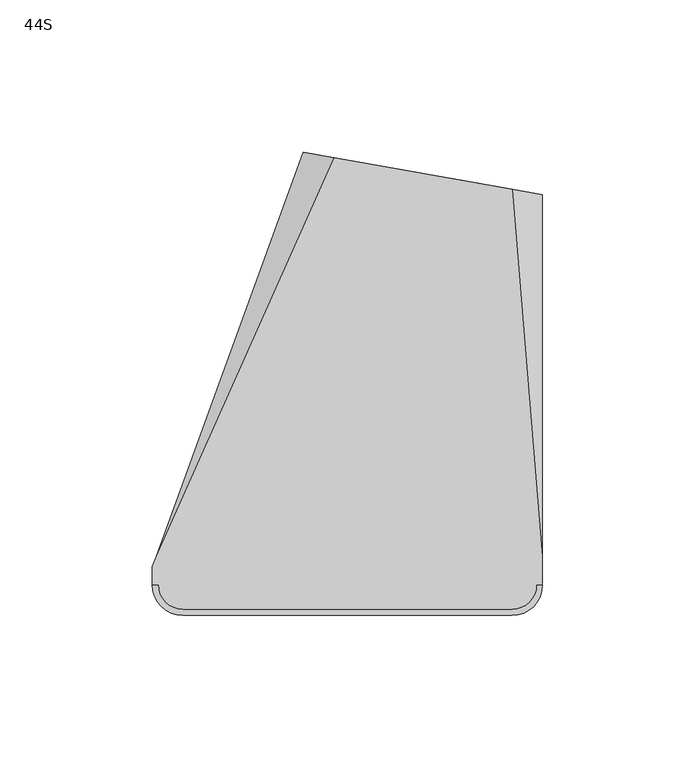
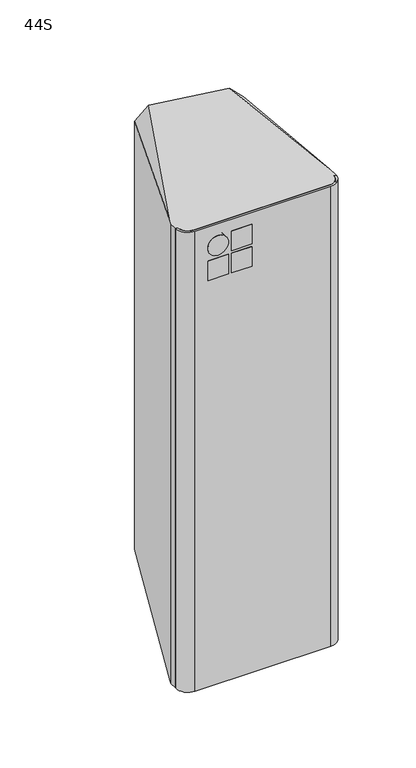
"""IFC4 building model written with IfcOpenShell, lengths in millimetres: proxy geometry, d&b xS-Series 44S Point Source : 44S."""

import ifcopenshell
import ifcopenshell.guid

model = None  # the IFC model being written
_history = None  # IfcOwnerHistory: only IFC2X3 demands one
_inside = {}  # id of a spatial element -> (the spatial element, [elements in it])
_under = {}  # id of a project, library or spatial element -> (it, [spatial elements below it])
_declared = {}  # id of a project -> (the project, [libraries it declares])
_typed = {}  # id of a type object -> (the type object, [elements of that type])
_made_of = {}  # id of a material, layer set ... -> (it, [elements and type objects made of it])


def new_model(schema):
    """Start an empty IFC model of exactly this schema.

    Asked for "IFC4X3", IfcOpenShell would pick the latest addendum, in which some entities
    have other attributes; the version numbers below select the first issue.
    IFC2X3 requires an IfcOwnerHistory on every rooted entity: one is made here for all.
    """
    global model, _history
    if schema == "IFC4X3":
        model = ifcopenshell.file(schema_version=(4, 3, 0, 0))
    else:
        model = ifcopenshell.file(schema=schema)
    _inside.clear()
    _under.clear()
    _declared.clear()
    _typed.clear()
    _made_of.clear()
    _history = None
    if model.schema == "IFC2X3":
        org = make("IfcOrganization", Name="unknown")
        user = make(
            "IfcPersonAndOrganization",
            ThePerson=make("IfcPerson", FamilyName="unknown"),
            TheOrganization=org,
        )
        app = make(
            "IfcApplication",
            ApplicationDeveloper=org,
            Version="unknown",
            ApplicationFullName="unknown",
            ApplicationIdentifier="unknown",
        )
        _history = make(
            "IfcOwnerHistory",
            OwningUser=user,
            OwningApplication=app,
            ChangeAction="ADDED",
            CreationDate=0,
        )
    return model


def make(cls, **values):
    """One entity of the class cls with the attributes given. An attribute that is None is left unset."""
    return model.create_entity(
        cls, **{name: value for name, value in values.items() if value is not None}
    )


def rooted(cls, **values):
    """An entity with a GlobalId (a new one), such as an element, a storey or a relation."""
    return make(cls, GlobalId=ifcopenshell.guid.new(), OwnerHistory=_history, **values)


def si_unit(unit_type, name, prefix=None):
    """IfcSIUnit, for example si_unit("LENGTHUNIT", "METRE", prefix="MILLI")."""
    return make("IfcSIUnit", UnitType=unit_type, Prefix=prefix, Name=name)


def assignment(units):
    """IfcUnitAssignment: the units of a project."""
    return None if units is None else make("IfcUnitAssignment", Units=units)


def point(xyz):
    """IfcCartesianPoint."""
    return None if xyz is None else make("IfcCartesianPoint", Coordinates=xyz)


def direction(xyz):
    """IfcDirection."""
    return None if xyz is None else make("IfcDirection", DirectionRatios=xyz)


def frame(location, z_axis=None, x_axis=None):
    """IfcAxis2Placement3D, a coordinate frame: its origin and axes. An axis left out is left unset."""
    return make(
        "IfcAxis2Placement3D",
        Location=point(location),
        Axis=direction(z_axis),
        RefDirection=direction(x_axis),
    )


def frame_2d(location, x_axis=None):
    """IfcAxis2Placement2D, a coordinate frame in the plane: its origin and x axis."""
    return make(
        "IfcAxis2Placement2D", Location=point(location), RefDirection=direction(x_axis)
    )


def origin():
    """The frame at (0, 0, 0) with its axes left unset."""
    return frame((0.0, 0.0, 0.0))


def place(relative_to, where):
    """IfcLocalPlacement: puts the frame where relative to a parent placement (None: the world)."""
    return make(
        "IfcLocalPlacement", PlacementRelTo=relative_to, RelativePlacement=where
    )


def context(
    kind, dimensions, precision=None, world=None, true_north=None, identifier=None
):
    """IfcGeometricRepresentationContext, for example the 3D "Model" context."""
    return make(
        "IfcGeometricRepresentationContext",
        ContextIdentifier=identifier,
        ContextType=kind,
        CoordinateSpaceDimension=dimensions,
        Precision=precision,
        WorldCoordinateSystem=world,
        TrueNorth=true_north,
    )


def project(units=None, contexts=None):
    """IfcProject with its units and contexts."""
    return rooted(
        "IfcProject",
        Name="project",
        RepresentationContexts=contexts,
        UnitsInContext=assignment(units),
    )


def spatial(cls, under=None, at=None, **own):
    """A site, building, storey or space (cls), placed at a placement, below another one or the project."""
    s = rooted(cls, ObjectPlacement=at, **own)
    if under is not None:
        _under.setdefault(under.id(), (under, []))[1].append(s)
    return s


def polyline(points):
    """IfcPolyline through the points."""
    return make("IfcPolyline", Points=[point(p) for p in points])


def circle_curve(where, radius):
    """IfcCircle in the frame where."""
    return make("IfcCircle", Position=where, Radius=radius)


def ellipse_curve(where, semi_axis1, semi_axis2):
    """IfcEllipse in the frame where."""
    return make(
        "IfcEllipse", Position=where, SemiAxis1=semi_axis1, SemiAxis2=semi_axis2
    )


def trimmed(basis, trim1, trim2, sense, master):
    """IfcTrimmedCurve: the piece of a basis curve between two trims."""
    return make(
        "IfcTrimmedCurve",
        BasisCurve=basis,
        Trim1=trim1,
        Trim2=trim2,
        SenseAgreement=sense,
        MasterRepresentation=master,
    )


def segment(curve, same_sense, transition):
    """IfcCompositeCurveSegment."""
    return make(
        "IfcCompositeCurveSegment",
        Transition=transition,
        SameSense=same_sense,
        ParentCurve=curve,
    )


def composite_curve(segments, self_intersect=None):
    """IfcCompositeCurve: segments joined end to end."""
    return make("IfcCompositeCurve", Segments=segments, SelfIntersect=self_intersect)


def outline(outer, holes=None, kind="AREA"):
    """IfcArbitraryClosedProfileDef: a profile drawn as a closed curve; with holes, ...WithVoids."""
    if holes is None:
        return make("IfcArbitraryClosedProfileDef", ProfileType=kind, OuterCurve=outer)
    return make(
        "IfcArbitraryProfileDefWithVoids",
        ProfileType=kind,
        OuterCurve=outer,
        InnerCurves=holes,
    )


def extrude(swept, where, along, depth):
    """IfcExtrudedAreaSolid: the profile swept, set in the frame where, extruded along a direction by depth."""
    return make(
        "IfcExtrudedAreaSolid",
        SweptArea=swept,
        Position=where,
        ExtrudedDirection=direction(along),
        Depth=depth,
    )


def shape(context_of_items, identifier, shape_type, items):
    """IfcShapeRepresentation: the items that make up one representation, for example the "Body"."""
    return make(
        "IfcShapeRepresentation",
        ContextOfItems=context_of_items,
        RepresentationIdentifier=identifier,
        RepresentationType=shape_type,
        Items=items,
    )


def source(mapping_origin, context_of_items, identifier, shape_type, items):
    """IfcRepresentationMap: a shape defined once, which mapped items show again and again."""
    return make(
        "IfcRepresentationMap",
        MappingOrigin=mapping_origin,
        MappedRepresentation=shape(context_of_items, identifier, shape_type, items),
    )


def transform(
    local_origin,
    x_axis=None,
    y_axis=None,
    z_axis=None,
    scale=None,
    scale2=None,
    scale3=None,
    uniform=True,
):
    """IfcCartesianTransformationOperator3D, or its non-uniform kind. x_axis, y_axis, z_axis: its Axis1, 2, 3."""
    if uniform:
        return make(
            "IfcCartesianTransformationOperator3D",
            Axis1=direction(x_axis),
            Axis2=direction(y_axis),
            LocalOrigin=point(local_origin),
            Scale=scale,
            Axis3=direction(z_axis),
        )
    return make(
        "IfcCartesianTransformationOperator3DnonUniform",
        Axis1=direction(x_axis),
        Axis2=direction(y_axis),
        LocalOrigin=point(local_origin),
        Scale=scale,
        Axis3=direction(z_axis),
        Scale2=scale2,
        Scale3=scale3,
    )


def mapped(mapping_source, mapping_target):
    """IfcMappedItem: shows the shape of a source again, moved by a transform."""
    return make(
        "IfcMappedItem", MappingSource=mapping_source, MappingTarget=mapping_target
    )


def made_of(thing, what):
    """Note that an element or type object is made of a material, layer set ...; save() writes the relation."""
    if what is not None:
        _made_of.setdefault(what.id(), (what, []))[1].append(thing)
    return thing


def element(
    cls,
    number,
    at=None,
    inside=None,
    cuts=None,
    type_object=None,
    material=None,
    context=None,
    identifier="Body",
    shape_type=None,
    held_by="IfcProductDefinitionShape",
    body=None,
    shapes=None,
    **own,
):
    """One element of the class cls, such as IfcWall. Its Tag is "e" and its number.

    at: its placement. inside: the storey or other place that contains it. cuts: it is an
    opening in that element (IfcRelVoidsElement). A single representation is given by context,
    identifier, shape_type and body (its items); several are given by shapes. held_by: the class
    of the entity that holds the representations. save() writes the other relations.
    """
    e = rooted(cls, Tag="e%d" % number, ObjectPlacement=at, **own)
    if body is not None:
        shapes = [shape(context, identifier, shape_type, body)]
    if shapes is not None:
        e.Representation = make(held_by, Representations=shapes)
    if inside is not None:
        _inside.setdefault(inside.id(), (inside, []))[1].append(e)
    if cuts is not None:
        rooted(
            "IfcRelVoidsElement", RelatingBuildingElement=cuts, RelatedOpeningElement=e
        )
    if type_object is not None:
        _typed.setdefault(type_object.id(), (type_object, []))[1].append(e)
    return made_of(e, material)


def aggregate(whole, parts):
    """IfcRelAggregates: a whole, such as a stair, and the parts it consists of."""
    return rooted("IfcRelAggregates", RelatingObject=whole, RelatedObjects=parts)


def save(model, path):
    """Write the relations noted so far, then the file.

    IfcRelAggregates (storeys below a building ...), IfcRelContainedInSpatialStructure (elements
    in a storey), IfcRelDefinesByType, IfcRelAssociatesMaterial and IfcRelDeclares: one each for
    every whole, place, type object, material and project.
    """
    for whole, parts in _under.values():
        aggregate(whole, parts)
    for where, things in _inside.values():
        rooted(
            "IfcRelContainedInSpatialStructure",
            RelatedElements=things,
            RelatingStructure=where,
        )
    for kind, things in _typed.values():
        rooted("IfcRelDefinesByType", RelatedObjects=things, RelatingType=kind)
    for what, things in _made_of.values():
        rooted("IfcRelAssociatesMaterial", RelatedObjects=things, RelatingMaterial=what)
    for by, libraries in _declared.values():
        rooted("IfcRelDeclares", RelatingContext=by, RelatedDefinitions=libraries)
    model.write(path)


def plane_surface(at):
    """IfcPlane: the flat surface through the origin of the frame at, square to its z axis."""
    return make("IfcPlane", Position=at)


def cylinder_surface(at, radius):
    """IfcCylindricalSurface: all points at the distance radius from the z axis of the frame at."""
    return make("IfcCylindricalSurface", Position=at, Radius=radius)


def revolved_surface(curve, axis_point, axis_direction):
    """IfcSurfaceOfRevolution: the curve turned about the line through axis_point along axis_direction."""
    return make(
        "IfcSurfaceOfRevolution",
        SweptCurve=make("IfcArbitraryOpenProfileDef", ProfileType="CURVE", Curve=curve),
        AxisPosition=make("IfcAxis1Placement", Location=point(axis_point), Axis=direction(axis_direction)),
    )


def advanced_brep(points, edges, surfaces, faces):
    """IfcAdvancedBrep: a solid bounded by faces that lie on surfaces and meet in shared edges.

    An edge is (start, end): straight between two places in points (the first is 0);
    or (start, end, curve); or (start, end, curve, False) where it runs against its curve.
    A face is (place in surfaces, loops), or (place, loops, False) where it looks against
    its surface's normal. A loop lists edges by number (the first is 1), with a minus sign
    where the edge is run from its end to its start. The first loop is the outer one.
    """
    corners = [point(p) for p in points]
    vertices = [make("IfcVertexPoint", VertexGeometry=c) for c in corners]
    made = []
    for start, end, *more in edges:
        made.append(
            make(
                "IfcEdgeCurve",
                EdgeStart=vertices[start],
                EdgeEnd=vertices[end],
                EdgeGeometry=more[0] if more else make("IfcPolyline", Points=[corners[start], corners[end]]),
                SameSense=more[1] if len(more) > 1 else True,
            )
        )
    hull = []
    for where, loops, *sense in faces:
        bounds = []
        for j, loop in enumerate(loops):
            ring = [make("IfcOrientedEdge", EdgeElement=made[abs(k) - 1], Orientation=k > 0) for k in loop]
            bounds.append(
                make(
                    "IfcFaceOuterBound" if j == 0 else "IfcFaceBound",
                    Bound=make("IfcEdgeLoop", EdgeList=ring),
                    Orientation=True,
                )
            )
        hull.append(make("IfcAdvancedFace", Bounds=bounds, FaceSurface=surfaces[where], SameSense=sense[0] if sense else True))
    return make("IfcAdvancedBrep", Outer=make("IfcClosedShell", CfsFaces=hull))


def proxy_44s_975088ee(model_context):
    return source(origin(), model_context, "Body", "SolidModel", [
        advanced_brep(
        [(64.0, -66.0, -193.2924342), (62.0435242, -66.0, -193.2924342), (54.078429, -73.9650952, -193.4294708), (-54.0, -73.9650952, -193.4294708), (-62.0, -65.9650952, -193.2918337), (-64.0, -65.9650952, -193.2918337), (-64.0, -60.0349048, -193.1898069), (-62.7855103, -56.6972655, -193.132384), (-4.3760941, 74.2148737, -190.8800877), (54.074657, 63.9084293, -191.0574064), (64.0, -56.6972655, -193.132384), (62.0435242, -66.0, 193.2924342), (64.0, -66.0, 193.2924342), (64.0, -56.6972655, 193.132384), (54.074657, 63.9084293, 191.0574064), (-4.3760941, 74.2148737, 190.8800877), (-62.7855103, -56.6972655, 193.132384), (-64.0, -60.0349048, 193.1898069), (-64.0, -65.9650952, 193.2918337), (-62.0, -65.9650952, 193.2918337), (-54.0, -73.9650952, 193.4294708), (54.078429, -73.9650952, 193.4294708), (64.0, 62.1583235, -181.3061997), (64.0, 62.1583235, 181.3061997), (-14.5000481, 76.0, 179.9289467), (-14.5000481, 76.0, -179.9289467), (11.9474751, 71.3365881, -138.5), (37.5524767, 66.8217355, -138.5), (47.4005542, 65.0852537, -128.5), (47.4005542, 65.0852537, -51.5), (37.5524767, 66.8217355, -41.5), (11.9474751, 71.3365881, -41.5), (2.0993976, 73.0730698, -51.5), (2.0993976, 73.0730698, -128.5), (11.0792343, 66.4125493, -138.5), (1.2311567, 68.1490311, -128.5), (1.2311567, 68.1490311, -51.5), (11.0792343, 66.4125493, -41.5), (36.6842358, 61.8976967, -41.5), (46.5323134, 60.1612149, -51.5), (46.5323134, 60.1612149, -128.5), (36.6842358, 61.8976967, -138.5)],
        [
            (0, 1),
            (1, 2, ellipse_curve(frame((54.078429, -66.0, -193.2924342), z_axis=(0.0, 0.017202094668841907, -0.9998520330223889), x_axis=(0.0, -0.999852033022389, -0.017202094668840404)), 7.9662739, 7.9650952)),
            (2, 3),
            (3, 4, ellipse_curve(frame((-54.0, -65.9650952, -193.2918337), z_axis=(0.0, 0.017202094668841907, -0.9998520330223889), x_axis=(0.0, -0.999852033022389, -0.017202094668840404)), 8.0011839, 8.0)),
            (4, 5),
            (5, 6),
            (6, 7),
            (7, 8),
            (8, 9),
            (9, 10),
            (10, 0),
            (11, 12),
            (12, 13),
            (13, 14),
            (14, 15),
            (15, 16),
            (16, 17),
            (17, 18),
            (18, 19),
            (19, 20, ellipse_curve(frame((-54.0, -65.9650952, 193.2918337), z_axis=(0.0, 0.017202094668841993, 0.9998520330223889), x_axis=(0.0, 0.999852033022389, -0.017202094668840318)), 8.0011839, 8.0)),
            (20, 21),
            (21, 11, ellipse_curve(frame((54.078429, -66.0, 193.2924342), z_axis=(0.0, 0.017202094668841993, 0.9998520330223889), x_axis=(0.0, 0.999852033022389, -0.017202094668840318)), 7.9662739, 7.9650952)),
            (0, 12),
            (11, 1),
            (21, 2),
            (20, 3),
            (19, 4),
            (18, 5),
            (17, 6),
            (10, 22),
            (22, 23),
            (23, 13),
            (16, 24),
            (24, 25),
            (25, 7),
            (9, 22),
            (23, 14),
            (15, 24),
            (25, 8),
            (26, 27),
            (27, 28, circle_curve(frame((37.5524767, 66.8217355, -128.5), z_axis=(-0.17364817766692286, -0.9848077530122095, 0.0), x_axis=(-0.9848077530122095, 0.17364817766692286, 0.0)), 10.0)),
            (28, 29),
            (29, 30, circle_curve(frame((37.5524767, 66.8217355, -51.5), z_axis=(-0.17364817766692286, -0.9848077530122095, 0.0), x_axis=(-0.9848077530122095, 0.17364817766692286, 0.0)), 10.0)),
            (30, 31),
            (31, 32, circle_curve(frame((11.9474751, 71.3365881, -51.5), z_axis=(-0.17364817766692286, -0.9848077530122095, 0.0), x_axis=(-0.9848077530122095, 0.17364817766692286, 0.0)), 10.0)),
            (32, 33),
            (33, 26, circle_curve(frame((11.9474751, 71.3365881, -128.5), z_axis=(-0.17364817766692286, -0.9848077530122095, 0.0), x_axis=(-0.9848077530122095, 0.17364817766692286, 0.0)), 10.0)),
            (34, 35, circle_curve(frame((11.0792343, 66.4125493, -128.5), z_axis=(0.17364817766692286, 0.9848077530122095, 0.0), x_axis=(-0.9848077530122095, 0.17364817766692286, 0.0)), 10.0)),
            (35, 36),
            (36, 37, circle_curve(frame((11.0792343, 66.4125493, -51.5), z_axis=(0.17364817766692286, 0.9848077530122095, 0.0), x_axis=(-0.9848077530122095, 0.17364817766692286, 0.0)), 10.0)),
            (37, 38),
            (38, 39, circle_curve(frame((36.6842358, 61.8976967, -51.5), z_axis=(0.17364817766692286, 0.9848077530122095, 0.0), x_axis=(-0.9848077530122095, 0.17364817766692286, 0.0)), 10.0)),
            (39, 40),
            (40, 41, circle_curve(frame((36.6842358, 61.8976967, -128.5), z_axis=(0.17364817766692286, 0.9848077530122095, 0.0), x_axis=(-0.9848077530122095, 0.17364817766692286, 0.0)), 10.0)),
            (41, 34),
            (41, 27),
            (26, 34),
            (40, 28),
            (39, 29),
            (38, 30),
            (37, 31),
            (36, 32),
            (35, 33),
        ],
        [
            plane_surface(frame((-100.0, -97.3033587, -193.8309972), z_axis=(0.0, 0.017202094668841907, -0.9998520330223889), x_axis=(1.0, 0.0, 0.0))),
            plane_surface(frame((-100.0, 83.9889493, 190.7119283), z_axis=(0.0, 0.017202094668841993, 0.9998520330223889), x_axis=(1.0, 0.0, 0.0))),
            plane_surface(frame((64.0, -66.0, -207.1452552), z_axis=(0.0, -1.0, 0.0), x_axis=(0.0, 0.0, 1.0))),
            cylinder_surface(frame((54.078429, -66.0, 207.1452552), z_axis=(0.0, 0.0, -1.0), x_axis=(1.0, 0.0, 0.0)), 7.9650952),
            plane_surface(frame((54.078429, -73.9650952, -207.1452552), z_axis=(0.0, -1.0, 0.0), x_axis=(0.0, 0.0, 1.0))),
            cylinder_surface(frame((-54.0, -65.9650952, 207.1452552), z_axis=(0.0, 0.0, -1.0), x_axis=(1.0, 0.0, 0.0)), 8.0),
            plane_surface(frame((-62.0, -65.9650952, -207.1452552), z_axis=(0.0, -1.0, 0.0), x_axis=(0.0, 0.0, 1.0))),
            plane_surface(frame((-64.0, -65.9650952, -207.1452552), z_axis=(-1.0, 0.0, 0.0), x_axis=(0.0, 0.0, 1.0))),
            plane_surface(frame((64.0, -60.0349048, -207.1452552), z_axis=(1.0, 0.0, 0.0), x_axis=(0.0, 0.0, 1.0))),
            plane_surface(frame((-14.5000481, 76.0, 0.0), z_axis=(-0.9397208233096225, 0.3419426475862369, 0.0), x_axis=(0.0, 0.0, -1.0))),
            plane_surface(frame((57.232233, 76.0, -186.6967137), z_axis=(0.7053631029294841, 0.07018394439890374, -0.7053631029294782), x_axis=(0.7071067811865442, 0.0, 0.7071067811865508))),
            plane_surface(frame((57.232233, 76.0, 186.6967137), z_axis=(0.7053631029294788, 0.07018394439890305, 0.7053631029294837), x_axis=(-0.7071067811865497, 0.0, 0.7071067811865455))),
            plane_surface(frame((-7.7322812, 76.0, 186.6967137), z_axis=(-0.6719558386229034, 0.31136907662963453, 0.6719558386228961), x_axis=(-0.7071067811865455, 0.0, -0.7071067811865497))),
            plane_surface(frame((-7.7322812, 76.0, -186.6967137), z_axis=(-0.6719558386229, 0.31136907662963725, -0.6719558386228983), x_axis=(0.7071067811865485, 0.0, -0.7071067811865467))),
            plane_surface(frame((81.2585403, 59.1151772, -250.0), z_axis=(0.17364817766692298, 0.9848077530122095, 0.0), x_axis=(0.0, 0.0, 1.0))),
            plane_surface(frame((63.1317591, 57.2342848, -138.5), z_axis=(0.1736481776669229, 0.9848077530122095, 0.0), x_axis=(0.9848077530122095, -0.1736481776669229, 0.0))),
            plane_surface(frame((11.0792343, 66.4125493, -138.5), z_axis=(0.0, 0.0, 1.0000000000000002), x_axis=(0.17364817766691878, 0.9848077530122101, 0.0))),
            revolved_surface(polyline([(26.836158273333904, 63.634178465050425, -128.5), (27.704399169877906, 68.55821727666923, -128.5)]), (37.5524767, 66.8217355, -128.5), (-0.17364817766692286, -0.9848077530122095, 0.0)),
            plane_surface(frame((46.5323134, 60.1612149, -128.5), z_axis=(-0.9848077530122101, 0.17364817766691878, 0.0), x_axis=(0.17364817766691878, 0.9848077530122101, 0.0))),
            revolved_surface(polyline([(26.836158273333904, 63.634178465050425, -51.5), (27.704399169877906, 68.55821727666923, -51.5)]), (37.5524767, 66.8217355, -51.5), (-0.17364817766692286, -0.9848077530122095, 0.0)),
            plane_surface(frame((36.6842358, 61.8976967, -41.5), z_axis=(0.0, 0.0, -1.0000000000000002), x_axis=(0.17364817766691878, 0.9848077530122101, 0.0))),
            revolved_surface(polyline([(1.2311566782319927, 68.14903109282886, -51.5), (2.0993975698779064, 73.07306987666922, -51.5)]), (11.9474751, 71.3365881, -51.5), (-0.17364817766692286, -0.9848077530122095, 0.0)),
            plane_surface(frame((1.2311567, 68.1490311, -51.5), z_axis=(0.9848077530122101, -0.17364817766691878, 0.0), x_axis=(0.17364817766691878, 0.9848077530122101, 0.0))),
            revolved_surface(polyline([(1.2311566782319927, 68.14903109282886, -128.5), (2.0993975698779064, 73.07306987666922, -128.5)]), (11.9474751, 71.3365881, -128.5), (-0.17364817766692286, -0.9848077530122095, 0.0)),
        ],
        [
            (0, [[1, 2, 3, 4, 5, 6, 7, 8, 9, 10, 11]]),
            (1, [[12, 13, 14, 15, 16, 17, 18, 19, 20, 21, 22]]),
            (2, [[23, -12, 24, -1]]),
            (3, [[-24, -22, 25, -2]]),
            (4, [[-25, -21, 26, -3]]),
            (5, [[-26, -20, 27, -4]]),
            (6, [[-27, -19, 28, -5]]),
            (7, [[-28, -18, 29, -6]]),
            (8, [[-23, -11, 30, 31, 32, -13]]),
            (9, [[-29, -17, 33, 34, 35, -7]]),
            (10, [[-30, -10, 36]]),
            (11, [[-32, 37, -14]]),
            (12, [[-33, -16, 38]]),
            (13, [[-35, 39, -8]]),
            (14, [[-31, -36, -9, -39, -34, -38, -15, -37], [40, 41, 42, 43, 44, 45, 46, 47]]),
            (15, [[48, 49, 50, 51, 52, 53, 54, 55]]),
            (16, [[-55, 56, -40, 57]]),
            (17, [[-54, 58, -41, -56]]),
            (18, [[-53, 59, -42, -58]]),
            (19, [[-52, 60, -43, -59]]),
            (20, [[-51, 61, -44, -60]]),
            (21, [[-50, 62, -45, -61]]),
            (22, [[-49, 63, -46, -62]]),
            (23, [[-48, -57, -47, -63]]),
        ],
    ),
        extrude(outline(polyline([(-27.6666667, -76.0), (-44.0, -76.0), (-44.0, -71.0), (-27.6666667, -71.0), (-27.6666667, -76.0)])), frame((0.0, 0.0, 148.4644806), z_axis=(0.0, 0.0, 1.0), x_axis=(1.0, 0.0, 0.0)), (0.0, 0.0, 1.0), 16.3333333),
        extrude(outline(polyline([(-9.0, -76.0), (-25.3333333, -76.0), (-25.3333333, -71.0), (-9.0, -71.0), (-9.0, -76.0)])), frame((0.0, 0.0, 148.4644806), z_axis=(0.0, 0.0, 1.0), x_axis=(1.0, 0.0, 0.0)), (0.0, 0.0, 1.0), 16.3333333),
        extrude(outline(polyline([(-9.0, -76.0), (-25.3333333, -76.0), (-25.3333333, -71.0), (-9.0, -71.0), (-9.0, -76.0)])), frame((0.0, 0.0, 167.1311473), z_axis=(0.0, 0.0, 1.0), x_axis=(1.0, 0.0, 0.0)), (0.0, 0.0, 1.0), 16.3333333),
        extrude(outline(composite_curve([segment(trimmed(circle_curve(frame_2d((175.2978139, -35.8333333)), 8.1666667), [point((183.4644806, -35.8333333))], [point((167.1311473, -35.8333333))], False, "CARTESIAN"), True, "CONTINUOUS"), segment(trimmed(circle_curve(frame_2d((175.2978139, -35.8333333)), 8.1666667), [point((167.1311473, -35.8333333))], [point((183.4644806, -35.8333333))], False, "CARTESIAN"), True, "CONTINUOUS")], self_intersect=False)), frame((0.0, -76.0, 0.0), z_axis=(0.0, 1.0, 0.0), x_axis=(0.0, 0.0, 1.0)), (0.0, 0.0, 1.0), 5.0),
        advanced_brep(
        [(-54.0, -73.9650952, -193.4294708), (54.078429, -73.9650952, -193.4294708), (62.0435242, -66.0, -193.2924342), (64.0, -66.0, -193.2924342), (54.0, -76.0, -193.4644806), (-54.0, -76.0, -193.4644806), (-64.0349048, -65.9650952, -193.2918337), (-62.0, -65.9650952, -193.2918337), (54.078429, -73.9650952, 193.4294708), (-54.0, -73.9650952, 193.4294708), (-62.0, -65.9650952, 193.2918337), (-64.0349048, -65.9650952, 193.2918337), (-54.0, -76.0, 193.4644806), (54.0, -76.0, 193.4644806), (64.0, -66.0, 193.2924342), (62.0435242, -66.0, 193.2924342)],
        [
            (0, 1),
            (1, 2, ellipse_curve(frame((54.078429, -66.0, -193.2924342), z_axis=(0.0, -0.017202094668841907, 0.9998520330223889), x_axis=(0.0, 0.999852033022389, 0.017202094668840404)), 7.9662739, 7.9650952)),
            (2, 3),
            (3, 4, ellipse_curve(frame((54.0, -66.0, -193.2924342), z_axis=(0.0, 0.017202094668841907, -0.9998520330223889), x_axis=(0.0, -0.999852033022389, -0.017202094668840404)), 10.0014799, 10.0)),
            (4, 5),
            (5, 6, ellipse_curve(frame((-54.0, -65.9650952, -193.2918337), z_axis=(0.0, 0.017202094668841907, -0.9998520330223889), x_axis=(0.0, -0.999852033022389, -0.017202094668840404)), 10.0363899, 10.0349048)),
            (6, 7),
            (7, 0, ellipse_curve(frame((-54.0, -65.9650952, -193.2918337), z_axis=(0.0, -0.017202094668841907, 0.9998520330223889), x_axis=(0.0, 0.999852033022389, 0.017202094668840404)), 8.0011839, 8.0)),
            (8, 9),
            (9, 10, ellipse_curve(frame((-54.0, -65.9650952, 193.2918337), z_axis=(0.0, -0.017202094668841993, -0.9998520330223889), x_axis=(0.0, -0.999852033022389, 0.017202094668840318)), 8.0011839, 8.0)),
            (10, 11),
            (11, 12, ellipse_curve(frame((-54.0, -65.9650952, 193.2918337), z_axis=(0.0, 0.017202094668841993, 0.9998520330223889), x_axis=(0.0, 0.999852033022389, -0.017202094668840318)), 10.0363899, 10.0349048)),
            (12, 13),
            (13, 14, ellipse_curve(frame((54.0, -66.0, 193.2924342), z_axis=(0.0, 0.017202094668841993, 0.9998520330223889), x_axis=(0.0, 0.999852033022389, -0.017202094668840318)), 10.0014799, 10.0)),
            (14, 15),
            (15, 8, ellipse_curve(frame((54.078429, -66.0, 193.2924342), z_axis=(0.0, -0.017202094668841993, -0.9998520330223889), x_axis=(0.0, -0.999852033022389, 0.017202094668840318)), 7.9662739, 7.9650952)),
            (0, 9),
            (8, 1),
            (15, 2),
            (14, 3),
            (13, 4),
            (12, 5),
            (11, 6),
            (10, 7),
        ],
        [
            plane_surface(frame((-100.0, -97.3033587, -193.8309972), z_axis=(0.0, 0.017202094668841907, -0.9998520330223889), x_axis=(1.0, 0.0, 0.0))),
            plane_surface(frame((-100.0, 83.9889493, 190.7119283), z_axis=(0.0, 0.017202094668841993, 0.9998520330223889), x_axis=(1.0, 0.0, 0.0))),
            plane_surface(frame((-54.0, -73.9650952, -202.5), z_axis=(0.0, 1.0, 0.0), x_axis=(0.0, 0.0, 1.0))),
            revolved_surface(polyline([(46.1133338, -66.0, 193.4294708), (46.1133338, -66.0, -193.4294708)]), (54.078429, -66.0, 202.5), (0.0, 0.0, 1.0)),
            plane_surface(frame((62.0435242, -66.0, -202.5), z_axis=(0.0, 1.0, 0.0), x_axis=(0.0, 0.0, 1.0))),
            cylinder_surface(frame((54.0, -66.0, 202.5), z_axis=(0.0, 0.0, -1.0), x_axis=(-1.0, 0.0, 0.0)), 10.0),
            plane_surface(frame((54.0, -76.0, -202.5), z_axis=(0.0, -1.0, 0.0), x_axis=(0.0, 0.0, 1.0))),
            cylinder_surface(frame((-54.0, -65.9650952, 202.5), z_axis=(0.0, 0.0, -1.0), x_axis=(-1.0, 0.0, 0.0)), 10.0349048),
            plane_surface(frame((-64.0349048, -65.9650952, -202.5), z_axis=(0.0, 1.0, 0.0), x_axis=(0.0, 0.0, 1.0))),
            revolved_surface(polyline([(-62.0, -65.9650952, 193.42947082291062), (-62.0, -65.9650952, -193.42947082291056)]), (-54.0, -65.9650952, 202.5), (0.0, 0.0, 1.0)),
        ],
        [
            (0, [[1, 2, 3, 4, 5, 6, 7, 8]]),
            (1, [[9, 10, 11, 12, 13, 14, 15, 16]]),
            (2, [[17, -9, 18, -1]]),
            (3, [[-18, -16, 19, -2]]),
            (4, [[-19, -15, 20, -3]]),
            (5, [[-20, -14, 21, -4]]),
            (6, [[-21, -13, 22, -5]]),
            (7, [[-22, -12, 23, -6]]),
            (8, [[-23, -11, 24, -7]]),
            (9, [[-17, -8, -24, -10]]),
        ],
    ),
    ])


if __name__ == "__main__":
    model = new_model("IFC4")
    model_context = context("Model", 3, world=origin())
    ifc_project = project(units=[si_unit("LENGTHUNIT", "METRE", prefix="MILLI")], contexts=[model_context])
    site = spatial("IfcSite", under=ifc_project)
    building = spatial("IfcBuilding", under=site)
    placement = place(None, origin())
    proxy_44s_shape = proxy_44s_975088ee(model_context)
    element("IfcBuildingElementProxy", 1, Name="d&b xS-Series 44S Point Source : 44S", ObjectType="d&b xS-Series 44S Point Source : 44S", at=placement, inside=building, context=model_context, shape_type="MappedRepresentation", body=[
        mapped(proxy_44s_shape, transform((0.0, 0.0, 0.0), x_axis=(1.0, 0.0, 0.0), y_axis=(0.0, 1.0, 0.0), z_axis=(0.0, 0.0, 1.0))),
    ])
    save(model, "model.ifc")
